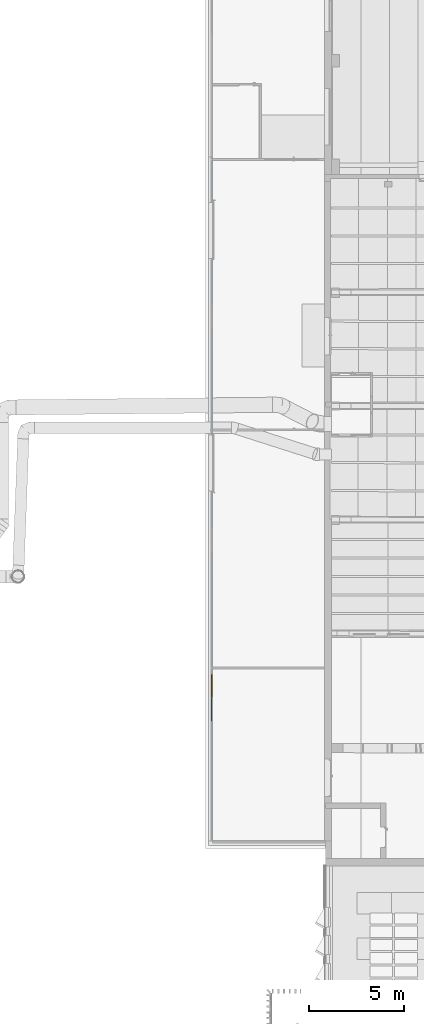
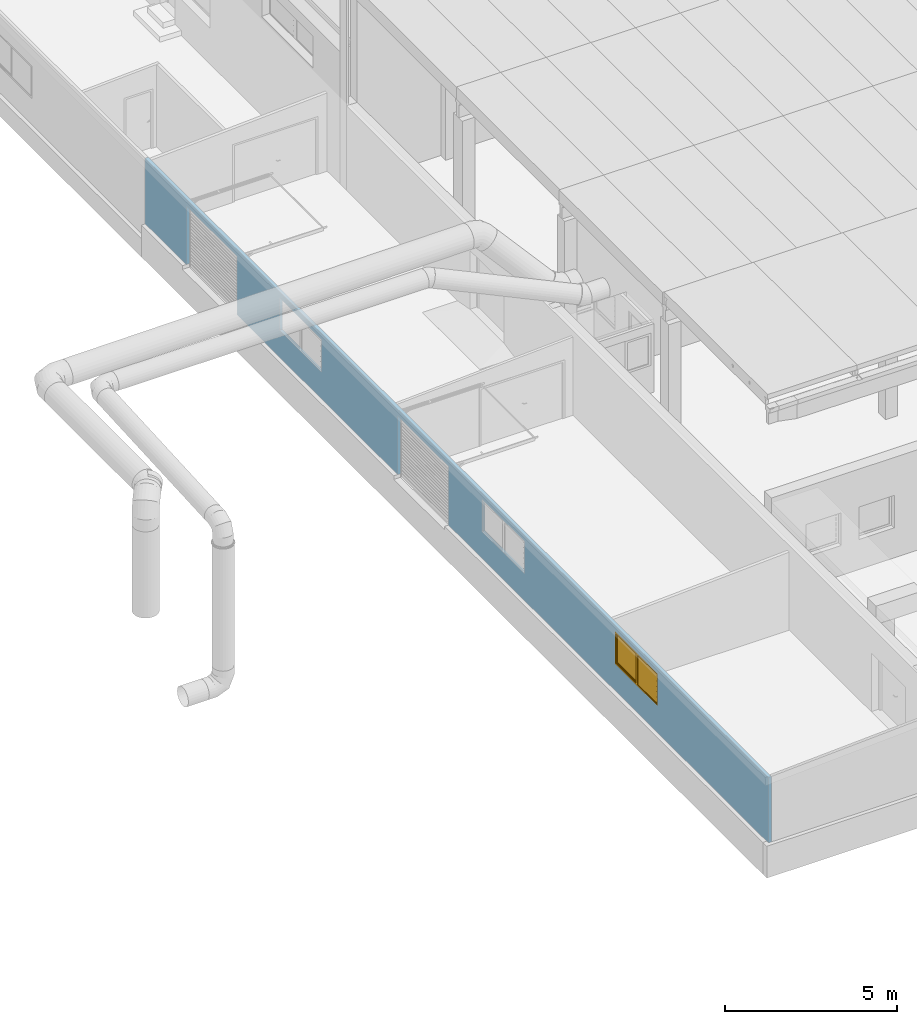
# One storey, part 89 of 301: 1 window, 5 openings, plus 1 element that does not belong to this part.
"""IFC2X3 building model written with IfcOpenShell, lengths in millimetres."""

from ifc_helpers import new_model, entity, si_unit, converted_unit, derived_unit, money_unit, direction, frame, origin_with_axes, place, context, subcontext, project, spatial, open_shell, faceted_brep, surface_model, source, transform, mapped, material, type_object, element, fill, save


model = new_model("IFC2X3")

# Units and contexts
model_context = context("Model", 3, precision=0.01, world=origin_with_axes(), true_north=direction((0.0, 1.0)))
body_context = subcontext(model_context, "Body", "Model", "MODEL_VIEW")
ifc_project = project(units=[si_unit("LENGTHUNIT", "METRE", prefix="MILLI"), si_unit("AREAUNIT", "SQUARE_METRE"), si_unit("VOLUMEUNIT", "CUBIC_METRE"), converted_unit("PLANEANGLEUNIT", "DEGREE", entity("IfcPlaneAngleMeasure", 0.0174532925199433), si_unit("PLANEANGLEUNIT", "RADIAN"), dimensions=[0, 0, 0, 0, 0, 0, 0]), money_unit("EUR"), converted_unit("TIMEUNIT", "Year", entity("IfcTimeMeasure", 31557600.0), si_unit("TIMEUNIT", "SECOND"), dimensions=[0, 0, 1, 0, 0, 0, 0]), si_unit("MASSUNIT", "GRAM", prefix="KILO"), si_unit("THERMODYNAMICTEMPERATUREUNIT", "DEGREE_CELSIUS"), si_unit("LUMINOUSINTENSITYUNIT", "LUMEN"), si_unit("ENERGYUNIT", "JOULE", prefix="MEGA"), derived_unit("THERMALCONDUCTANCEUNIT", [(si_unit("POWERUNIT", "WATT"), 1), (si_unit("LENGTHUNIT", "METRE"), -1), (si_unit("THERMODYNAMICTEMPERATUREUNIT", "KELVIN"), -1)]), derived_unit("SPECIFICHEATCAPACITYUNIT", [(si_unit("ENERGYUNIT", "JOULE"), 1), (si_unit("MASSUNIT", "GRAM", prefix="KILO"), -1), (si_unit("THERMODYNAMICTEMPERATUREUNIT", "KELVIN"), -1)]), derived_unit("MASSDENSITYUNIT", [(si_unit("MASSUNIT", "GRAM", prefix="KILO"), 1), (si_unit("VOLUMEUNIT", "CUBIC_METRE"), -1)])], contexts=[model_context])

# Site, building, storey
site_placement = place(None, frame((0.0, 0.0, 8650.0), z_axis=(0.0, 0.0, 1.0), x_axis=(1.0, 0.0, 0.0)))
site = spatial("IfcSite", under=ifc_project, at=site_placement, Name="43301:001:0844", CompositionType="ELEMENT")
building_placement = place(site_placement, origin_with_axes())
building = spatial("IfcBuilding", under=site, at=building_placement, Name="Kuressaare Ametikooli tuulikute mehaanikute õppekorpus", CompositionType="ELEMENT")
storey_placement = place(building_placement, origin_with_axes())
storey = spatial("IfcBuildingStorey", under=building, at=storey_placement, Name="1.korrus", CompositionType="ELEMENT", Elevation=0.0)

# Wall, openings, window
ifc_material = material(Name="GENEERILINE - KONSTRUKTRIOON")
wall_type = type_object("IfcWallType", Name="GENEERILINE - KONSTRUKTRIOON 100", PredefinedType="NOTDEFINED")
wall_placement = place(storey_placement, frame((81891.83878898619, 63236.26327514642, 130.0), z_axis=(0.0, 0.0, 1.0), x_axis=(0.0, -1.0, 0.0)))
wall = element("IfcWall", 1, at=wall_placement, inside=storey, type_object=wall_type, material=ifc_material, Name="VS-XX", context=body_context, shape_type="Brep", body=[
    faceted_brep([(0.0, 0.0, 2324.239970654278), (0.0, 99.99999999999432, 2329.655717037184), (0.0, 99.99999999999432, 0.0), (0.0, 0.0, 0.0), (36237.35618591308, 99.99999999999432, 2320.415741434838), (36237.35618591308, 0.0, 2314.99999505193), (36237.35618591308, 99.99999999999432, 0.0), (17639.43948142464, 99.99999999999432, 0.0), (17639.43948142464, 99.99999999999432, 2080.0), (14679.43948142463, 99.99999999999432, 2080.0), (14679.43948142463, 99.99999999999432, 0.0), (5347.920379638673, 99.99999999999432, 0.0), (5347.920379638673, 99.99999999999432, 2080.0), (2387.920379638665, 99.99999999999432, 2080.0), (2387.920379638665, 99.99999999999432, 0.0), (19573.59649658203, 99.99999999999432, 950.0000000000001), (22053.59649658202, 99.99999999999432, 950.0000000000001), (22053.59649658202, 99.99999999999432, 2100.0), (19573.59649658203, 99.99999999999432, 2100.0), (7797.758178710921, 99.99999999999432, 2100.0), (7797.758178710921, 99.99999999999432, 950.0000000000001), (10247.75817871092, 99.99999999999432, 950.0000000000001), (10247.75817871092, 99.99999999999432, 2100.0), (29801.21437949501, 99.99999999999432, 2100.0), (27321.21437949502, 99.99999999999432, 2100.0), (27321.21437949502, 99.99999999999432, 950.0000000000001), (29801.21437949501, 99.99999999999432, 950.0000000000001), (2387.920379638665, 0.0, 0.0), (2387.920379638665, 0.0, 2080.0), (5347.920379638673, 0.0, 2080.0), (5347.920379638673, 0.0, 0.0), (14679.43948142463, 0.0, 0.0), (14679.43948142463, 0.0, 2080.0), (17639.43948142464, 0.0, 2080.0), (17639.43948142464, 0.0, 0.0), (36237.35618591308, 0.0, 0.0), (22053.59649658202, 0.0, 2100.0), (22053.59649658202, 0.0, 950.0000000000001), (19573.59649658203, 0.0, 950.0000000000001), (19573.59649658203, 0.0, 2100.0), (7797.758178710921, 0.0, 2100.0), (10247.75817871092, 0.0, 2100.0), (10247.75817871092, 0.0, 950.0000000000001), (7797.758178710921, 0.0, 950.0000000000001), (27321.21437949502, 0.0, 950.0000000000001), (27321.21437949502, 0.0, 2100.0), (29801.21437949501, 0.0, 2100.0), (29801.21437949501, 0.0, 950.0000000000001)], [[[0, 1, 2, 3]], [[4, 1, 0, 5]], [[1, 4, 6, 7, 8, 9, 10, 11, 12, 13, 14, 2], [15, 16, 17, 18], [19, 20, 21, 22], [23, 24, 25, 26]], [[14, 27, 3, 2]], [[5, 0, 3, 27, 28, 29, 30, 31, 32, 33, 34, 35], [36, 37, 38, 39], [40, 41, 42, 43], [44, 45, 46, 47]], [[4, 5, 35, 6]], [[35, 34, 7, 6]], [[33, 8, 7, 34]], [[32, 9, 8, 33]], [[31, 10, 9, 32]], [[11, 10, 31, 30]], [[12, 11, 30, 29]], [[13, 12, 29, 28]], [[14, 13, 28, 27]], [[37, 16, 15, 38]], [[36, 17, 16, 37]], [[39, 18, 17, 36]], [[38, 15, 18, 39]], [[40, 43, 20, 19]], [[43, 42, 21, 20]], [[42, 41, 22, 21]], [[41, 40, 19, 22]], [[23, 46, 45, 24]], [[24, 45, 44, 25]], [[25, 44, 47, 26]], [[26, 47, 46, 23]]]),
])
opening_1_placement = place(wall_placement, frame((20813.59649658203, 0.0, 949.9999999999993), z_axis=(0.0, 0.0, 1.0), x_axis=(1.0, 0.0, 0.0)))
element("IfcOpeningElement", 2, at=opening_1_placement, cuts=wall, Name="VA-XX", context=body_context, shape_type="Brep", body=[
    faceted_brep([(1239.999999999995, 100.9999999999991, 1150.0), (1239.999999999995, 100.9999999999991, 0.0), (-1239.999999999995, 100.9999999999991, 0.0), (-1239.999999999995, 100.9999999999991, 1150.0), (1239.999999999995, -1.000000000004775, 1150.0), (1239.999999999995, -1.000000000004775, 0.0), (-1239.999999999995, -1.000000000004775, 0.0), (-1239.999999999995, -1.000000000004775, 1150.0)], [[[0, 1, 2, 3]], [[4, 5, 1, 0]], [[5, 6, 2, 1]], [[6, 7, 3, 2]], [[7, 4, 0, 3]], [[6, 5, 4, 7]]]),
])
opening_2_placement = place(wall_placement, frame((9022.758178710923, 0.0, 949.9999999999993), z_axis=(0.0, 0.0, 1.0), x_axis=(1.0, 0.0, 0.0)))
element("IfcOpeningElement", 3, at=opening_2_placement, cuts=wall, Name="VA-XX", context=body_context, shape_type="Brep", body=[
    faceted_brep([(1225.000000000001, 100.9999999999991, 1150.0), (1225.000000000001, 100.9999999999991, 0.0), (-1225.000000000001, 100.9999999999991, 0.0), (-1225.000000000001, 100.9999999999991, 1150.0), (1225.000000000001, -1.000000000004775, 1150.0), (1225.000000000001, -1.000000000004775, 0.0), (-1225.000000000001, -1.000000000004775, 0.0), (-1225.000000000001, -1.000000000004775, 1150.0)], [[[0, 1, 2, 3]], [[4, 5, 1, 0]], [[5, 6, 2, 1]], [[6, 7, 3, 2]], [[7, 4, 0, 3]], [[6, 5, 4, 7]]]),
])
opening_3_placement = place(wall_placement, frame((28561.21437949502, 0.0, 949.9999999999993), z_axis=(0.0, 0.0, 1.0), x_axis=(1.0, 0.0, 0.0)))
opening_3 = element("IfcOpeningElement", 4, at=opening_3_placement, cuts=wall, Name="VA-XX", context=body_context, shape_type="Brep", body=[
    faceted_brep([(1239.999999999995, 100.9999999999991, 1150.0), (1239.999999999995, 100.9999999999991, 0.0), (-1239.999999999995, 100.9999999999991, 0.0), (-1239.999999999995, 100.9999999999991, 1150.0), (1239.999999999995, -1.000000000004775, 1150.0), (1239.999999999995, -1.000000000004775, 0.0), (-1239.999999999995, -1.000000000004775, 0.0), (-1239.999999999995, -1.000000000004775, 1150.0)], [[[0, 1, 2, 3]], [[4, 5, 1, 0]], [[5, 6, 2, 1]], [[6, 7, 3, 2]], [[7, 4, 0, 3]], [[6, 5, 4, 7]]]),
])
opening_4_placement = place(wall_placement, frame((3867.920379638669, 0.0, -130.0000000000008), z_axis=(0.0, 0.0, 1.0), x_axis=(1.0, 0.0, 0.0)))
element("IfcOpeningElement", 5, at=opening_4_placement, cuts=wall, context=body_context, shape_type="Brep", body=[
    faceted_brep([(1480.000000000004, 100.9999999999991, 2210.0), (1480.000000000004, 100.9999999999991, 0.0), (-1480.000000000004, 100.9999999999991, 0.0), (-1480.000000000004, 100.9999999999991, 2210.0), (1480.000000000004, -1.000000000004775, 2210.0), (1480.000000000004, -1.000000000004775, 0.0), (-1480.000000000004, -1.000000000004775, 0.0), (-1480.000000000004, -1.000000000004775, 2210.0)], [[[0, 1, 2, 3]], [[4, 5, 1, 0]], [[5, 6, 2, 1]], [[6, 7, 3, 2]], [[7, 4, 0, 3]], [[6, 5, 4, 7]]]),
])
opening_5_placement = place(wall_placement, frame((16159.43948142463, 0.0, -130.0000000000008), z_axis=(0.0, 0.0, 1.0), x_axis=(1.0, 0.0, 0.0)))
element("IfcOpeningElement", 6, at=opening_5_placement, cuts=wall, context=body_context, shape_type="Brep", body=[
    faceted_brep([(1480.000000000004, 100.9999999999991, 2210.0), (1480.000000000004, 100.9999999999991, 0.0), (-1480.000000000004, 100.9999999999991, 0.0), (-1480.000000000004, 100.9999999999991, 2210.0), (1480.000000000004, -1.000000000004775, 2210.0), (1480.000000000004, -1.000000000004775, 0.0), (-1480.000000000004, -1.000000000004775, 0.0), (-1480.000000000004, -1.000000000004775, 2210.0)], [[[0, 1, 2, 3]], [[4, 5, 1, 0]], [[5, 6, 2, 1]], [[6, 7, 3, 2]], [[7, 4, 0, 3]], [[6, 5, 4, 7]]]),
])
window_style = type_object("IfcWindowStyle", Name="Double Window 27", ConstructionType="NOTDEFINED", OperationType="DOUBLE_PANEL_VERTICAL", ParameterTakesPrecedence=False, Sizeable=False)
shared_shape = source(origin_with_axes(), body_context, "Body", "SurfaceModel", [
    faceted_brep([(-1214.999999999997, 0.0, 1100.0), (-1239.999999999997, 0.0, 1100.0), (-1239.999999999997, -50.00000000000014, 1100.0), (-1189.999999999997, -50.00000000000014, 1100.0), (-1189.999999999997, -25.00000000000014, 1100.0), (-1214.999999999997, -25.00000000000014, 1100.0), (-1214.999999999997, 0.0, 50.00000000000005), (-1239.999999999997, 0.0, 50.00000000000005), (-1239.999999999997, -50.00000000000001, 50.00000000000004), (-1189.999999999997, -50.00000000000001, 50.00000000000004), (-1189.999999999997, -25.00000000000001, 50.00000000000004), (-1214.999999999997, -25.00000000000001, 50.00000000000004)], [[[0, 1, 2, 3, 4, 5]], [[6, 7, 1, 0]], [[1, 7, 8, 2]], [[2, 8, 9, 3]], [[4, 3, 9, 10]], [[10, 11, 5, 4]], [[5, 11, 6, 0]], [[11, 10, 9, 8, 7, 6]]]),
    faceted_brep([(-25.00000000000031, -25.00000000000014, 1100.0), (-25.00000000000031, -50.00000000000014, 1100.0), (74.99999999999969, -50.00000000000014, 1100.0), (74.99999999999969, 0.0, 1100.0), (0.0, 0.0, 1100.0), (0.0, -25.00000000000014, 1100.0), (-25.00000000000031, -25.00000000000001, 50.00000000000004), (-25.00000000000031, -50.00000000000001, 50.00000000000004), (74.99999999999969, -50.00000000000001, 50.00000000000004), (74.99999999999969, 0.0, 50.00000000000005), (0.0, 0.0, 50.00000000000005), (0.0, -25.00000000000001, 50.00000000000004)], [[[0, 1, 2, 3, 4, 5]], [[6, 7, 1, 0]], [[8, 2, 1, 7]], [[9, 3, 2, 8]], [[4, 3, 9, 10]], [[10, 11, 5, 4]], [[5, 11, 6, 0]], [[11, 10, 9, 8, 7, 6]]]),
    faceted_brep([(-25.00000000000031, -25.00000000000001, 50.00000000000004), (-25.00000000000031, -50.00000000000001, 50.00000000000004), (74.99999999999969, -50.00000000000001, 50.00000000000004), (74.99999999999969, 0.0, 50.00000000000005), (0.0, 0.0, 50.00000000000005), (0.0, -25.00000000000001, 50.00000000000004), (-1189.999999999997, -25.00000000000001, 50.00000000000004), (-1189.999999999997, -50.00000000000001, 50.00000000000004), (-1239.999999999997, -50.00000000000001, 50.00000000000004), (-1239.999999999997, -50.0, 0.0), (1239.999999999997, -50.0, 0.0), (1239.999999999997, -50.00000000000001, 50.00000000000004), (1189.999999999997, -50.00000000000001, 50.00000000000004), (1189.999999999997, 0.0, 50.00000000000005), (-1214.999999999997, 0.0, 25.00000000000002), (0.0, 0.0, 25.00000000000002), (1239.999999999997, 0.0, 50.00000000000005), (1239.999999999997, 0.0, 0.0), (-1239.999999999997, 0.0, 0.0), (-1239.999999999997, 0.0, 50.00000000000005), (-1214.999999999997, 0.0, 50.00000000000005), (0.0, -25.0, 25.00000000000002), (-1214.999999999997, -25.0, 25.00000000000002), (-1214.999999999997, -25.00000000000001, 50.00000000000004)], [[[0, 1, 2, 3, 4, 5]], [[6, 7, 1, 0]], [[8, 9, 10, 11, 12, 2, 1, 7]], [[13, 3, 2, 12]], [[14, 15, 4, 3, 13, 16, 17, 18, 19, 20]], [[15, 21, 5, 4]], [[5, 21, 22, 23, 6, 0]], [[23, 20, 19, 8, 7, 6]], [[19, 18, 9, 8]], [[18, 17, 10, 9]], [[17, 16, 11, 10]], [[16, 13, 12, 11]], [[14, 22, 21, 15]], [[23, 22, 14, 20]]]),
    faceted_brep([(-1214.999999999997, 0.0, 1100.0), (-1239.999999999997, 0.0, 1100.0), (-1239.999999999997, 0.0, 1150.0), (1239.999999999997, 0.0, 1150.0), (1239.999999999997, 0.0, 1100.0), (1189.999999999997, 0.0, 1100.0), (74.99999999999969, 0.0, 1100.0), (0.0, 0.0, 1100.0), (0.0, 0.0, 1125.0), (-1214.999999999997, 0.0, 1125.0), (-1214.999999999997, -25.00000000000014, 1100.0), (-1189.999999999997, -25.00000000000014, 1100.0), (-1189.999999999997, -50.00000000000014, 1100.0), (-1239.999999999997, -50.00000000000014, 1100.0), (-1239.999999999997, -50.00000000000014, 1150.0), (1239.999999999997, -50.00000000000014, 1150.0), (1239.999999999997, -50.00000000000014, 1100.0), (1189.999999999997, -50.00000000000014, 1100.0), (74.99999999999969, -50.00000000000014, 1100.0), (0.0, -25.00000000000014, 1100.0), (-25.00000000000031, -50.00000000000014, 1100.0), (-25.00000000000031, -25.00000000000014, 1100.0), (0.0, -25.00000000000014, 1125.0), (-1214.999999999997, -25.00000000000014, 1125.0)], [[[0, 1, 2, 3, 4, 5, 6, 7, 8, 9]], [[10, 11, 12, 13, 1, 0]], [[2, 1, 13, 14]], [[3, 2, 14, 15]], [[4, 3, 15, 16]], [[5, 4, 16, 17]], [[6, 5, 17, 18]], [[19, 7, 6, 18, 20, 21]], [[7, 19, 22, 8]], [[8, 22, 23, 9]], [[9, 23, 10, 0]], [[21, 11, 10, 23, 22, 19]], [[21, 20, 12, 11]], [[18, 17, 16, 15, 14, 13, 12, 20]]]),
    faceted_brep([(1189.999999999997, -50.00000000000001, 50.0), (1189.999999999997, 0.0, 50.00000000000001), (1239.999999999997, 0.0, 50.00000000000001), (1239.999999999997, -50.00000000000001, 50.0), (1189.999999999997, -50.00000000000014, 1100.0), (1189.999999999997, 0.0, 1100.0), (1239.999999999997, 0.0, 1100.0), (1239.999999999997, -50.00000000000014, 1100.0)], [[[0, 1, 2, 3]], [[4, 5, 1, 0]], [[1, 5, 6, 2]], [[3, 2, 6, 7]], [[0, 3, 7, 4]], [[7, 6, 5, 4]]]),
    faceted_brep([(-1205.999999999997, 24.99999999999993, 602.0), (-1204.660254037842, 24.99999999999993, 607.0), (-1204.660254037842, 36.99999999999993, 607.0), (-1205.999999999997, 36.99999999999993, 602.0), (-1205.999999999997, 24.99999999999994, 547.9999999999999), (-1204.660254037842, 24.99999999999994, 542.9999999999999), (-1200.999999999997, 24.99999999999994, 539.3397459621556), (-1195.999999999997, 24.99999999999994, 537.9999999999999), (-1183.999999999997, 24.99999999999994, 537.9999999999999), (-1178.999999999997, 24.99999999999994, 539.3397459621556), (-1175.339745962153, 24.99999999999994, 542.9999999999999), (-1173.999999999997, 24.99999999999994, 547.9999999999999), (-1173.999999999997, 24.99999999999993, 602.0), (-1175.339745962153, 24.99999999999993, 607.0), (-1178.999999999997, 24.99999999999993, 610.6602540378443), (-1183.999999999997, 24.99999999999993, 612.0), (-1195.999999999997, 24.99999999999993, 612.0), (-1200.999999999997, 24.99999999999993, 610.6602540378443), (-1200.999999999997, 36.99999999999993, 610.6602540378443), (-1195.999999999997, 36.99999999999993, 612.0), (-1183.999999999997, 36.99999999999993, 612.0), (-1178.999999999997, 36.99999999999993, 610.6602540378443), (-1175.339745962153, 36.99999999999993, 607.0), (-1173.999999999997, 36.99999999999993, 602.0), (-1173.999999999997, 36.99999999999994, 547.9999999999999), (-1175.339745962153, 36.99999999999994, 542.9999999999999), (-1178.999999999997, 36.99999999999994, 539.3397459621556), (-1183.999999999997, 36.99999999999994, 537.9999999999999), (-1195.999999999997, 36.99999999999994, 537.9999999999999), (-1200.999999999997, 36.99999999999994, 539.3397459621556), (-1204.660254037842, 36.99999999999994, 542.9999999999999), (-1205.999999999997, 36.99999999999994, 547.9999999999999)], [[[0, 1, 2, 3]], [[0, 4, 5, 6, 7, 8, 9, 10, 11, 12, 13, 14, 15, 16, 17, 1]], [[1, 17, 18, 2]], [[3, 2, 18, 19, 20, 21, 22, 23, 24, 25, 26, 27, 28, 29, 30, 31]], [[4, 0, 3, 31]], [[5, 4, 31, 30]], [[6, 5, 30, 29]], [[7, 6, 29, 28]], [[8, 7, 28, 27]], [[9, 8, 27, 26]], [[10, 9, 26, 25]], [[11, 10, 25, 24]], [[12, 11, 24, 23]], [[13, 12, 23, 22]], [[14, 13, 22, 21]], [[15, 14, 21, 20]], [[16, 15, 20, 19]], [[17, 16, 19, 18]]]),
    faceted_brep([(-1189.999999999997, 36.99999999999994, 588.4999999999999), (-1183.249999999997, 36.99999999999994, 586.6913429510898), (-1183.249999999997, 60.99999999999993, 586.69134295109), (-1189.999999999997, 60.99999999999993, 588.4999999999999), (-1196.749999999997, 36.99999999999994, 586.6913429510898), (-1201.691342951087, 36.99999999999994, 581.75), (-1203.499999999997, 36.99999999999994, 575.0), (-1201.691342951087, 36.99999999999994, 568.2499999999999), (-1196.749999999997, 36.99999999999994, 563.3086570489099), (-1189.999999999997, 36.99999999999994, 561.5), (-1183.249999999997, 36.99999999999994, 563.30865704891), (-1178.308657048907, 36.99999999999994, 568.2499999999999), (-1176.499999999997, 36.99999999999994, 575.0), (-1178.308657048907, 36.99999999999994, 581.75), (-1178.308657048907, 60.99999999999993, 581.75), (-1176.499999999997, 60.99999999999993, 575.0), (-1178.308657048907, 60.99999999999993, 568.2499999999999), (-1183.249999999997, 60.99999999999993, 563.30865704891), (-1189.999999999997, 60.99999999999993, 561.5), (-1196.749999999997, 60.99999999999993, 563.30865704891), (-1201.691342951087, 60.99999999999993, 568.2499999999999), (-1203.499999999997, 60.99999999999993, 575.0), (-1201.691342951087, 60.99999999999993, 581.75), (-1196.749999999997, 60.99999999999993, 586.6913429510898)], [[[0, 1, 2, 3]], [[0, 4, 5, 6, 7, 8, 9, 10, 11, 12, 13, 1]], [[1, 13, 14, 2]], [[3, 2, 14, 15, 16, 17, 18, 19, 20, 21, 22, 23]], [[4, 0, 3, 23]], [[5, 4, 23, 22]], [[6, 5, 22, 21]], [[7, 6, 21, 20]], [[8, 7, 20, 19]], [[9, 8, 19, 18]], [[10, 9, 18, 17]], [[11, 10, 17, 16]], [[12, 11, 16, 15]], [[13, 12, 15, 14]]]),
    faceted_brep([(-1201.499999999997, 60.99999999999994, 468.0), (-1189.999999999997, 60.99999999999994, 464.9999999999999), (-1178.499999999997, 60.99999999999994, 468.0), (-1176.499999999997, 60.99999999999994, 471.0), (-1176.499999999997, 60.99999999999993, 575.0), (-1178.308657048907, 60.99999999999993, 581.75), (-1183.249999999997, 60.99999999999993, 586.69134295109), (-1189.999999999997, 60.99999999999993, 588.4999999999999), (-1196.749999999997, 60.99999999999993, 586.6913429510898), (-1201.691342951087, 60.99999999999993, 581.75), (-1203.499999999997, 60.99999999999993, 575.0), (-1203.499999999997, 60.99999999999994, 471.0), (-1201.500000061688, 68.99999999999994, 468.0000001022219), (-1190.000000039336, 68.99999999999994, 464.9999996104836), (-1178.500000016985, 68.99999999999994, 468.0000001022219), (-1176.499999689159, 68.99999999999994, 470.9999996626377), (-1176.499999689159, 68.99999999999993, 574.9999999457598), (-1178.308657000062, 68.99999999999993, 581.7499996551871), (-1183.250000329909, 68.99999999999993, 586.691342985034), (-1190.000000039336, 68.99999999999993, 588.5000002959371), (-1196.749999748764, 68.99999999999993, 586.691342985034), (-1201.691343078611, 68.99999999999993, 581.7499996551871), (-1203.500000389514, 68.99999999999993, 574.9999999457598), (-1203.500000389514, 68.99999999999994, 470.9999996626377), (-1199.637462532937, 71.99999956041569, 470.6145196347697), (-1190.000000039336, 71.99999956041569, 468.1003985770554), (-1180.362537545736, 71.99999956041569, 470.6145196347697), (-1179.499999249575, 71.99999956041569, 471.9083266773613), (-1179.499999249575, 71.99999956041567, 574.6050424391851), (-1180.998382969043, 71.99999956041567, 580.197085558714), (-1184.802914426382, 71.99999956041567, 584.001617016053), (-1190.000000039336, 71.99999956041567, 585.3941721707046), (-1195.197085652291, 71.99999956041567, 584.001617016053), (-1199.00161710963, 71.99999956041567, 580.197085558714), (-1200.500000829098, 71.99999956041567, 574.6050424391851), (-1200.500000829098, 71.99999956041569, 471.9083266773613)], [[[0, 1, 2, 3, 4, 5, 6, 7, 8, 9, 10, 11]], [[1, 0, 12, 13]], [[2, 1, 13, 14]], [[3, 2, 14, 15]], [[4, 3, 15, 16]], [[5, 4, 16, 17]], [[6, 5, 17, 18]], [[7, 6, 18, 19]], [[8, 7, 19, 20]], [[9, 8, 20, 21]], [[10, 9, 21, 22]], [[11, 10, 22, 23]], [[0, 11, 23, 12]], [[13, 12, 24, 25]], [[14, 13, 25, 26]], [[15, 14, 26, 27]], [[16, 15, 27, 28]], [[17, 16, 28, 29]], [[18, 17, 29, 30]], [[19, 18, 30, 31]], [[20, 19, 31, 32]], [[21, 20, 32, 33]], [[22, 21, 33, 34]], [[23, 22, 34, 35]], [[12, 23, 35, 24]], [[26, 25, 24, 35, 34, 33, 32, 31, 30, 29, 28, 27]]]),
    faceted_brep([(-1164.999999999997, -25.0000000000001, 1075.0), (-1164.999999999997, 24.9999999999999, 1075.0), (-1214.999999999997, 24.9999999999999, 1075.0), (-1214.999999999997, -25.00000000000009, 1075.0), (-1164.999999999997, -24.99999999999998, 75.00000000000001), (-1164.999999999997, 25.00000000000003, 75.00000000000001), (-1214.999999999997, 25.00000000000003, 75.00000000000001), (-1214.999999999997, -24.99999999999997, 75.00000000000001)], [[[0, 1, 2, 3]], [[4, 5, 1, 0]], [[1, 5, 6, 2]], [[3, 2, 6, 7]], [[0, 3, 7, 4]], [[7, 6, 5, 4]]]),
    faceted_brep([(-50.00000000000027, -25.00000000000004, 75.00000000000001), (-50.00000000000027, 24.99999999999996, 75.00000000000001), (0.0, 24.99999999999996, 75.00000000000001), (0.0, -25.00000000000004, 75.00000000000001), (-50.00000000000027, -25.00000000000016, 1075.0), (-50.00000000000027, 24.99999999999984, 1075.0), (0.0, 24.99999999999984, 1075.0), (0.0, -25.00000000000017, 1075.0)], [[[0, 1, 2, 3]], [[4, 5, 1, 0]], [[1, 5, 6, 2]], [[3, 2, 6, 7]], [[0, 3, 7, 4]], [[7, 6, 5, 4]]]),
    faceted_brep([(0.0, -25.00000000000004, 25.0), (0.0, 24.99999999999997, 25.00000000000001), (0.0, 24.99999999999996, 75.00000000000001), (0.0, -25.00000000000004, 75.00000000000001), (-1214.999999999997, -24.99999999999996, 25.0), (-1214.999999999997, 25.00000000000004, 25.00000000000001), (-1214.999999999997, 25.00000000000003, 75.00000000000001), (-1164.999999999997, 25.00000000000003, 75.00000000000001), (-50.00000000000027, 24.99999999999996, 75.00000000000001), (-50.00000000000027, -25.00000000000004, 75.00000000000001), (-1164.999999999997, -24.99999999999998, 75.00000000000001), (-1214.999999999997, -24.99999999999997, 75.00000000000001)], [[[0, 1, 2, 3]], [[4, 5, 1, 0]], [[1, 5, 6, 7, 8, 2]], [[3, 2, 8, 9]], [[0, 3, 9, 10, 11, 4]], [[11, 6, 5, 4]], [[10, 7, 6, 11]], [[9, 8, 7, 10]]]),
    faceted_brep([(-1214.999999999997, -25.0000000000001, 1125.0), (-1214.999999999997, 24.9999999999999, 1125.0), (-1214.999999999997, 24.9999999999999, 1075.0), (-1214.999999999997, -25.00000000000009, 1075.0), (0.0, -25.00000000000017, 1125.0), (0.0, 24.99999999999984, 1125.0), (0.0, 24.99999999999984, 1075.0), (-50.00000000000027, 24.99999999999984, 1075.0), (-1164.999999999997, 24.9999999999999, 1075.0), (-1164.999999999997, -25.0000000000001, 1075.0), (-50.00000000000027, -25.00000000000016, 1075.0), (0.0, -25.00000000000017, 1075.0)], [[[0, 1, 2, 3]], [[4, 5, 1, 0]], [[1, 5, 6, 7, 8, 2]], [[3, 2, 8, 9]], [[0, 3, 9, 10, 11, 4]], [[11, 6, 5, 4]], [[10, 7, 6, 11]], [[9, 8, 7, 10]]]),
    surface_model("IfcShellBasedSurfaceModel", [(-1164.999999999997, -10.00000000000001, 75.00000000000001), (-50.00000000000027, -10.00000000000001, 75.00000000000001), (-50.00000000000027, -10.00000000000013, 1075.0), (-1164.999999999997, -10.00000000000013, 1075.0)], [open_shell([[[0, 1, 2, 3]]])]),
    surface_model("IfcShellBasedSurfaceModel", [(-1164.999999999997, 9.999999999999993, 75.00000000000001), (-1164.999999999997, 9.999999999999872, 1075.0), (-50.00000000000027, 9.999999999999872, 1075.0), (-50.00000000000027, 9.999999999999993, 75.00000000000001)], [open_shell([[[0, 1, 2, 3]]])]),
    surface_model("IfcShellBasedSurfaceModel", [(74.99999999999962, -35.0, 49.99999999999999), (1189.999999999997, -35.0, 49.99999999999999), (1189.999999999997, -35.00000000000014, 1100.0), (74.99999999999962, -35.00000000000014, 1100.0)], [open_shell([[[0, 1, 2, 3]]])]),
    surface_model("IfcShellBasedSurfaceModel", [(74.99999999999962, -15.0, 49.99999999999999), (74.99999999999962, -15.00000000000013, 1100.0), (1189.999999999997, -15.00000000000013, 1100.0), (1189.999999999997, -15.0, 49.99999999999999)], [open_shell([[[0, 1, 2, 3]]])]),
])
window_placement = place(opening_3_placement, frame((-1239.999999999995, 0.0, 0.0), z_axis=(0.0, 0.0, 1.0), x_axis=(1.0, 0.0, 0.0)))
window = element("IfcWindow", 7, at=window_placement, inside=storey, type_object=window_style, Name="VA-XX", OverallHeight=1150.0, OverallWidth=2480.0, context=body_context, shape_type="MappedRepresentation", body=[
    mapped(shared_shape, transform((1239.999999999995, 49.99999999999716, 0.0))),
])
fill(opening_3, window)

save(model, "model.ifc")
